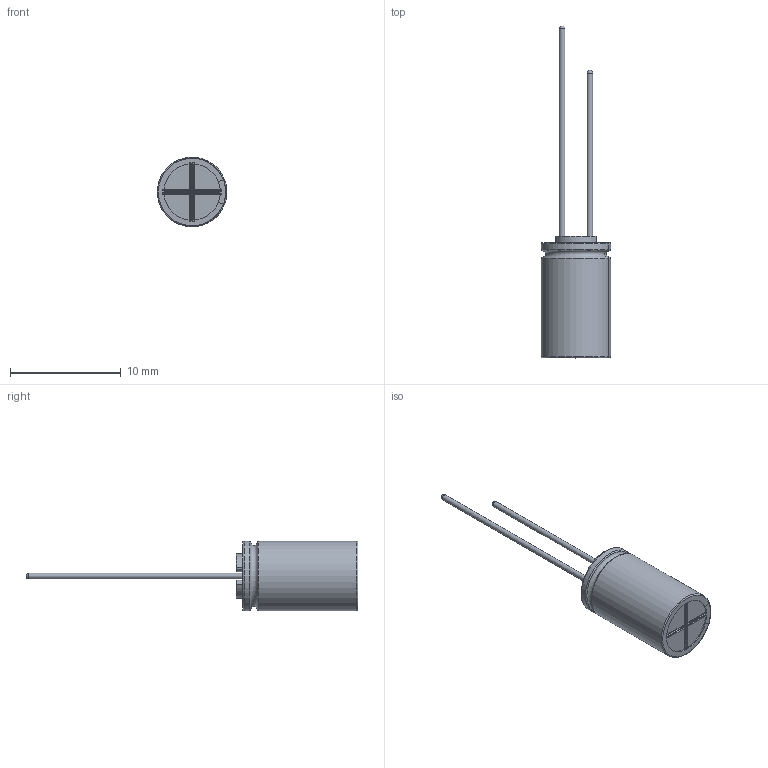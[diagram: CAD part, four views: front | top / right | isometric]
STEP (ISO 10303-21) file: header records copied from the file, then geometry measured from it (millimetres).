
FILE_DESCRIPTION(/* description */ (''),/* implementation_level */ '2;1');
FILE_NAME(/* name */ '6.3x11_Lead.stp',/* time_stamp */ '2017-09-05T13:48:24+09:00',/* author */ (''),/* organization */ (''),/* preprocessor_version */ 'ST-DEVELOPER v16',/* originating_system */ 'SIEMENS PLM Software NX 11.0',/* authorisation */ '');
FILE_SCHEMA (('AUTOMOTIVE_DESIGN { 1 0 10303 214 3 1 1 1 }'));
Length unit declared in the file: millimetre
Products named in the file (1): 6.3x11_Lead_0
Bounding box: 6.29 x 30 x 6.3 mm (x, y, z)
Volume: 328.5 mm3; surface area: 790.1 mm2
Topology: 3 solids, 3 shells, 120 faces, 296 edges, 185 vertices
Faces by surface type: cylinder 52, plane 31, torus 27, sphere 6, bspline 4
Full cylindrical faces by diameter (mm): 0.5 x2, 6.1 x2
Entity records: 4235 total; most frequent: CARTESIAN_POINT 701, DIRECTION 684, ORIENTED_EDGE 568, EDGE_CURVE 284, AXIS2_PLACEMENT_3D 283, VERTEX_POINT 180, CIRCLE 158, EDGE_LOOP 130
